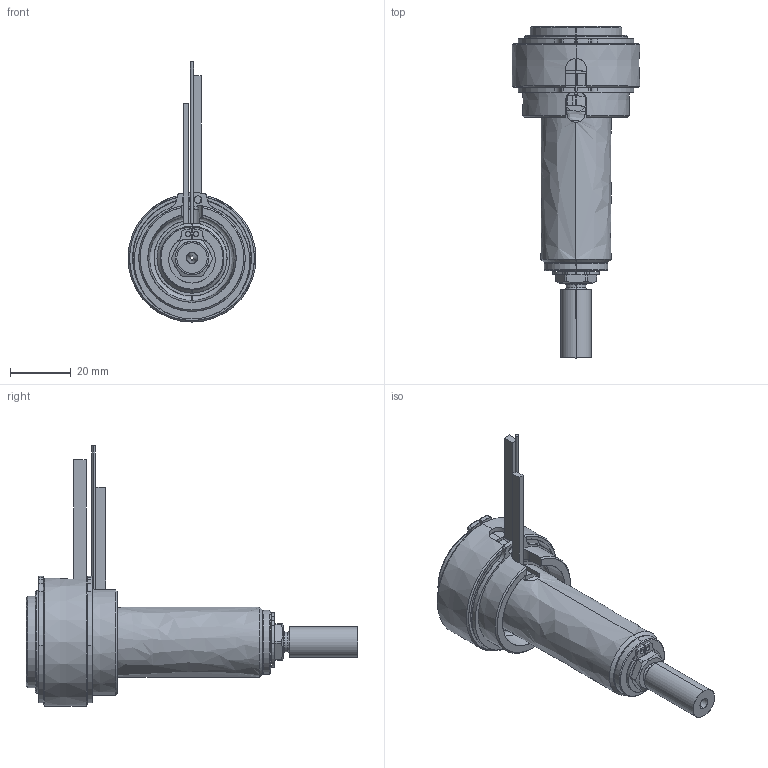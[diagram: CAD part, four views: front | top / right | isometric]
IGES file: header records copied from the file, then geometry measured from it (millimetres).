
Start section: SolidWorks IGES file using analytic representation for surfaces
Global section: file name: C:\Users\luca.EMPAD\Desktop\TEM\UGBE3501-M-A-P-3 [Ød-1.0 P-20 ØC-6.0].IGS; native system: SolidWorks 2012; preprocessor: SolidWorks 2012; author: luca; date: 120330.135501; units: millimetre
Bounding box: 42 x 109 x 85.4 mm (x, y, z)
Surface area: 27496.7 mm2 (no closed solid volume)
Topology: 0 solids, 0 shells, 189 faces, 3338 edges, 3338 vertices
Faces by surface type: revolution 121, bspline 68
